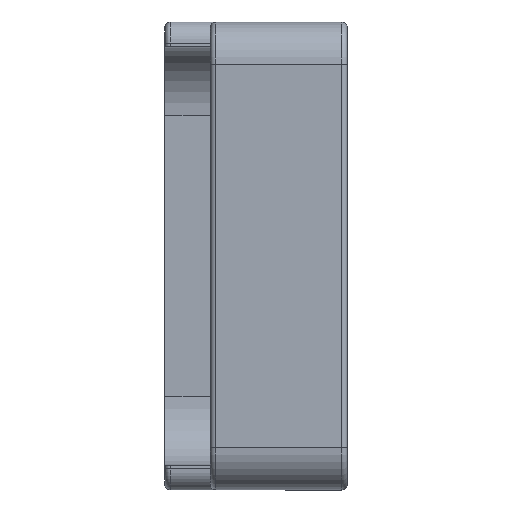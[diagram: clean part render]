
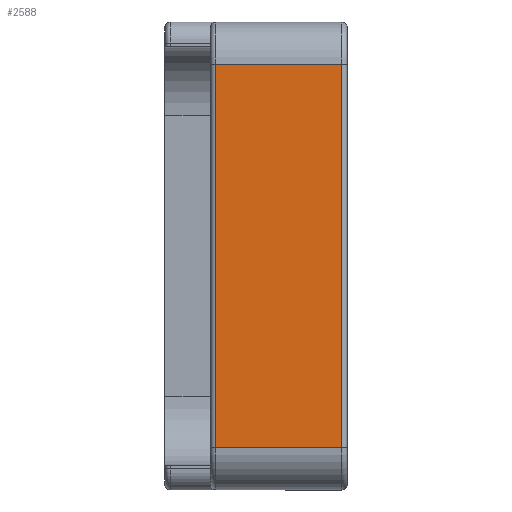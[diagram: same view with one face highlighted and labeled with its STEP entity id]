
A CAD part, left-side view. The second image highlights one B-rep face of the part: STEP entity #2588.
In plain terms, the highlighted planar face has unit normal (-1, 0, 0).
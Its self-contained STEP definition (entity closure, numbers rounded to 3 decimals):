
#770 = EDGE_CURVE ( 'NONE', #13821, #6769, #4860, .T. ) ;
#946 = DIRECTION ( 'NONE',  ( 1., 0., 0. ) ) ;
#1069 = ORIENTED_EDGE ( 'NONE', *, *, #3497, .T. ) ;
#1101 = LINE ( 'NONE', #15364, #3885 ) ;
#1364 = CARTESIAN_POINT ( 'NONE',  ( -94.46, 10., -40.29 ) ) ;
#2588 = ADVANCED_FACE ( 'NONE', ( #9513 ), #10714, .F. ) ;
#2759 = ORIENTED_EDGE ( 'NONE', *, *, #15037, .T. ) ;
#2847 = LINE ( 'NONE', #7467, #3503 ) ;
#3005 = CARTESIAN_POINT ( 'NONE',  ( -94.46, 12.44, -4. ) ) ;
#3455 = CARTESIAN_POINT ( 'NONE',  ( -94.46, 12.44, -40.29 ) ) ;
#3497 = EDGE_CURVE ( 'NONE', #16983, #8862, #1101, .T. ) ;
#3503 = VECTOR ( 'NONE', #15632, 1000. ) ;
#3846 = EDGE_LOOP ( 'NONE', ( #2759, #9771, #12736, #1069 ) ) ;
#3885 = VECTOR ( 'NONE', #8379, 1000. ) ;
#4105 = DIRECTION ( 'NONE',  ( 0., -1., 0. ) ) ;
#4860 = LINE ( 'NONE', #14195, #14772 ) ;
#6769 = VERTEX_POINT ( 'NONE', #14811 ) ;
#7467 = CARTESIAN_POINT ( 'NONE',  ( -94.46, 10., -4. ) ) ;
#8379 = DIRECTION ( 'NONE',  ( 0., 0., -1. ) ) ;
#8862 = VERTEX_POINT ( 'NONE', #3455 ) ;
#9305 = CARTESIAN_POINT ( 'NONE',  ( -94.46, 10., -44.29 ) ) ;
#9513 = FACE_OUTER_BOUND ( 'NONE', #3846, .T. ) ;
#9771 = ORIENTED_EDGE ( 'NONE', *, *, #770, .T. ) ;
#10714 = PLANE ( 'NONE',  #13515 ) ;
#10985 = VECTOR ( 'NONE', #4105, 1000. ) ;
#11634 = DIRECTION ( 'NONE',  ( 0., 0., 1. ) ) ;
#12736 = ORIENTED_EDGE ( 'NONE', *, *, #12787, .T. ) ;
#12787 = EDGE_CURVE ( 'NONE', #6769, #16983, #2847, .T. ) ;
#13515 = AXIS2_PLACEMENT_3D ( 'NONE', #9305, #946, #15965 ) ;
#13821 = VERTEX_POINT ( 'NONE', #13971 ) ;
#13971 = CARTESIAN_POINT ( 'NONE',  ( -94.46, 0.5, -40.29 ) ) ;
#14195 = CARTESIAN_POINT ( 'NONE',  ( -94.46, 0.5, -4. ) ) ;
#14772 = VECTOR ( 'NONE', #11634, 1000. ) ;
#14811 = CARTESIAN_POINT ( 'NONE',  ( -94.46, 0.5, -4. ) ) ;
#15037 = EDGE_CURVE ( 'NONE', #8862, #13821, #16937, .T. ) ;
#15364 = CARTESIAN_POINT ( 'NONE',  ( -94.46, 12.44, -44.29 ) ) ;
#15632 = DIRECTION ( 'NONE',  ( 0., 1., 0. ) ) ;
#15965 = DIRECTION ( 'NONE',  ( 0., 0., -1. ) ) ;
#16937 = LINE ( 'NONE', #1364, #10985 ) ;
#16983 = VERTEX_POINT ( 'NONE', #3005 ) ;
